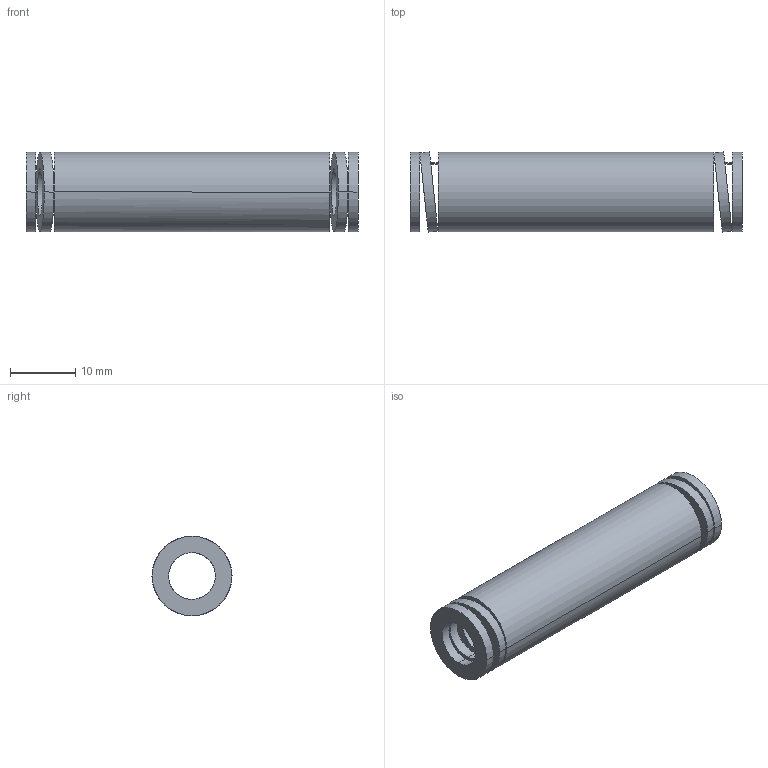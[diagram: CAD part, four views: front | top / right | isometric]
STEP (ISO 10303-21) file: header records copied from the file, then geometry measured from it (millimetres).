
FILE_DESCRIPTION(('CATIA V5 STEP Exchange'),'2;1');
FILE_NAME('C:\Users\Utente\Desktop\IO LAVORO\3D X SITO CF\X SITO\3D files 392B\392-B13-051.stp','2021-08-12T12:47:28+00:00',('none'),('none'),'CATIA Version 5 Release 20 GA (IN-10)','CATIA V5 STEP AP203','none');
FILE_SCHEMA(('CONFIG_CONTROL_DESIGN'));
Length unit declared in the file: millimetre
Products named in the file (1): 392-B13-051
Bounding box: 51 x 12.29 x 12.2 mm (x, y, z)
Volume: 3683.1 mm3; surface area: 3709.7 mm2
Topology: 1 solids, 1 shells, 38 faces, 92 edges, 64 vertices
Faces by surface type: cylinder 28, plane 10
Entity records: 1563 total; most frequent: CARTESIAN_POINT 670, ORIENTED_EDGE 184, DIRECTION 131, EDGE_CURVE 92, AXIS2_PLACEMENT_3D 66, VERTEX_POINT 64, EDGE_LOOP 56, ADVANCED_FACE 38
